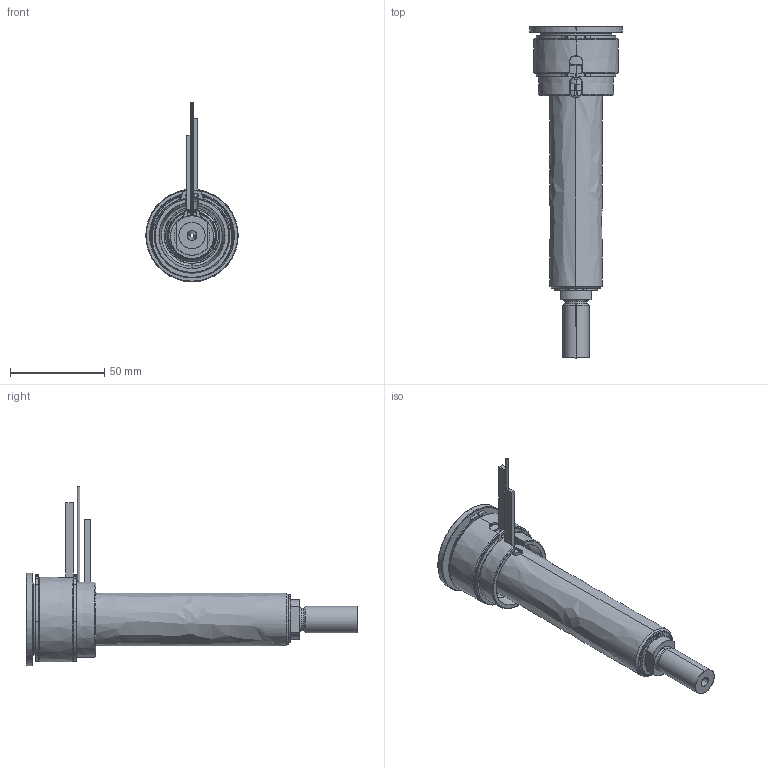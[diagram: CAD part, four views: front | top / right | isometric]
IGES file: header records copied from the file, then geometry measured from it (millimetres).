
Start section: SolidWorks IGES file using analytic representation for surfaces
Global section: file name: C:\Documents and Settings\ws-20\Desktop\TEM\UGBE4503-S-A-P-3 [Ød-2.0 P-25 ØC-09].IGS; native system: SolidWorks 2012; preprocessor: SolidWorks 2012; author: ws-20; date: 120412.153308; units: millimetre
Bounding box: 49 x 176 x 95.15 mm (x, y, z)
Surface area: 57761.5 mm2 (no closed solid volume)
Topology: 0 solids, 0 shells, 165 faces, 3083 edges, 3083 vertices
Faces by surface type: revolution 107, bspline 58
